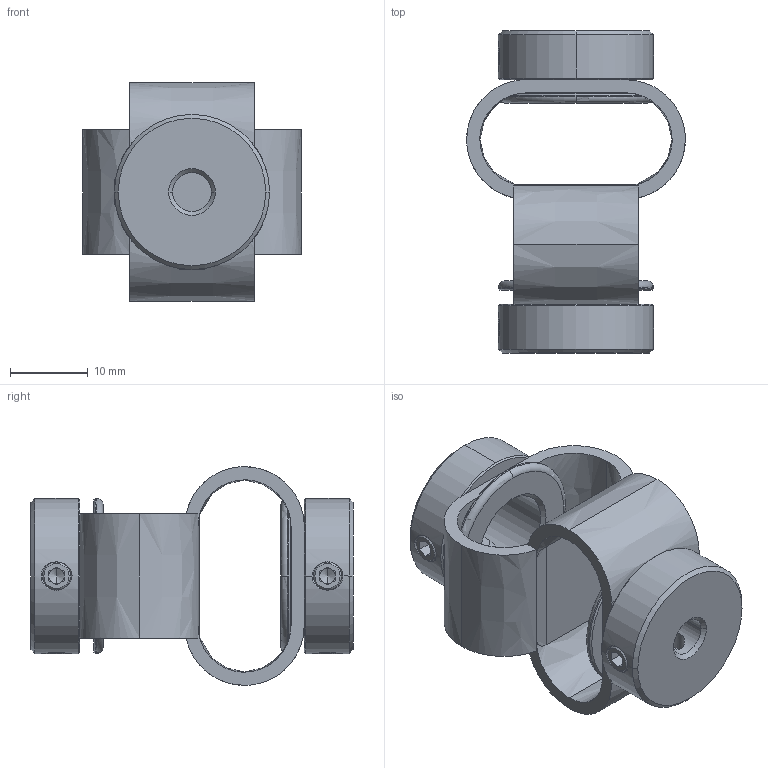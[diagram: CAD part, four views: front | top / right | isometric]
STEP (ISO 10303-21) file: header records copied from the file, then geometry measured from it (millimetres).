
FILE_DESCRIPTION (( 'STEP AP203' ), '1' );
FILE_NAME ('LS-D-D27L40-5-11.STEP', '2021-10-28T06:11:49', ( '' ), ( '' ), 'SwSTEP 2.0', 'SolidWorks 2018', '' );
FILE_SCHEMA (( 'CONFIG_CONTROL_DESIGN' ));
Length unit declared in the file: millimetre
Products named in the file (1): LS-D-D27L40-5-11
Bounding box: 28.2 x 41.54 x 28.2 mm (x, y, z)
Volume: 6803.2 mm3; surface area: 6699.3 mm2
Topology: 1 solids, 1 shells, 214 faces, 544 edges, 336 vertices
Faces by surface type: plane 86, cone 74, cylinder 34, bspline 16, torus 4
Entity records: 8383 total; most frequent: CARTESIAN_POINT 3319, ORIENTED_EDGE 1072, DIRECTION 990, EDGE_CURVE 536, AXIS2_PLACEMENT_3D 389, VERTEX_POINT 336, EDGE_LOOP 242, ADVANCED_FACE 214
